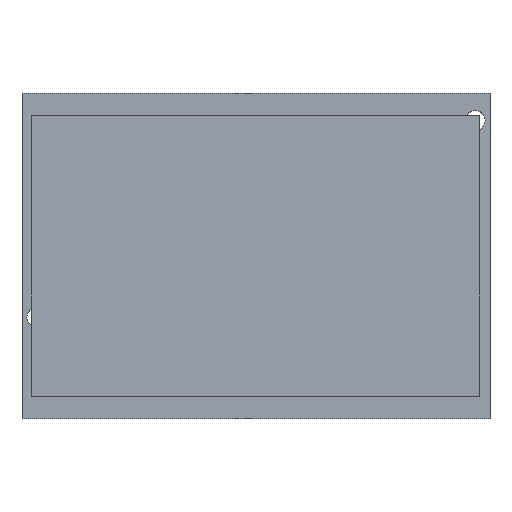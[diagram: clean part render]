
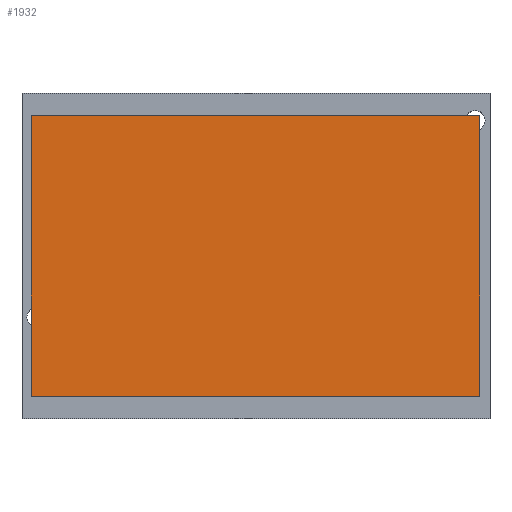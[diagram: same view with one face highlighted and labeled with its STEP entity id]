
A CAD part, top view. The second image highlights one B-rep face of the part: STEP entity #1932.
In plain terms, the highlighted planar face has unit normal (0, 0, 1) as drawn and (0, 0, -1) by its records, which use the part's own axes.
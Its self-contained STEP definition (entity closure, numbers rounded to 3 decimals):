
#677 = PLANE('',#678);
#678 = AXIS2_PLACEMENT_3D('',#679,#680,#681);
#679 = CARTESIAN_POINT('',(-18.6,5.7,2.));
#680 = DIRECTION('',(1.,0.,0.));
#681 = DIRECTION('',(0.,0.,-1.));
#759 = PLANE('',#760);
#760 = AXIS2_PLACEMENT_3D('',#761,#762,#763);
#761 = CARTESIAN_POINT('',(-18.6,5.7,2.));
#762 = DIRECTION('',(0.,-1.,0.));
#763 = DIRECTION('',(1.,0.,0.));
#853 = PLANE('',#854);
#854 = AXIS2_PLACEMENT_3D('',#855,#856,#857);
#855 = CARTESIAN_POINT('',(-0.4,5.7,2.));
#856 = DIRECTION('',(-1.,0.,0.));
#857 = DIRECTION('',(0.,0.,1.));
#917 = PLANE('',#918);
#918 = AXIS2_PLACEMENT_3D('',#919,#920,#921);
#919 = CARTESIAN_POINT('',(-18.6,-5.7,2.));
#920 = DIRECTION('',(0.,1.,0.));
#921 = DIRECTION('',(-1.,0.,0.));
#1433 = VERTEX_POINT('',#1434);
#1434 = CARTESIAN_POINT('',(-18.6,5.7,0.));
#1455 = EDGE_CURVE('',#1433,#1456,#1458,.T.);
#1456 = VERTEX_POINT('',#1457);
#1457 = CARTESIAN_POINT('',(-18.6,-5.7,0.));
#1458 = SURFACE_CURVE('',#1459,(#1463,#1470),.PCURVE_S1.);
#1459 = LINE('',#1460,#1461);
#1460 = CARTESIAN_POINT('',(-18.6,5.7,0.));
#1461 = VECTOR('',#1462,1.);
#1462 = DIRECTION('',(0.,-1.,0.));
#1463 = PCURVE('',#677,#1464);
#1464 = DEFINITIONAL_REPRESENTATION('',(#1465),#1469);
#1465 = LINE('',#1466,#1467);
#1466 = CARTESIAN_POINT('',(2.,0.));
#1467 = VECTOR('',#1468,1.);
#1468 = DIRECTION('',(0.,-1.));
#1469 = ( GEOMETRIC_REPRESENTATION_CONTEXT(2) 
PARAMETRIC_REPRESENTATION_CONTEXT() REPRESENTATION_CONTEXT('2D SPACE',''
  ) );
#1470 = PCURVE('',#1471,#1476);
#1471 = PLANE('',#1472);
#1472 = AXIS2_PLACEMENT_3D('',#1473,#1474,#1475);
#1473 = CARTESIAN_POINT('',(0.,0.,0.));
#1474 = DIRECTION('',(0.,0.,1.));
#1475 = DIRECTION('',(1.,0.,0.));
#1476 = DEFINITIONAL_REPRESENTATION('',(#1477),#1481);
#1477 = LINE('',#1478,#1479);
#1478 = CARTESIAN_POINT('',(-18.6,5.7));
#1479 = VECTOR('',#1480,1.);
#1480 = DIRECTION('',(0.,-1.));
#1481 = ( GEOMETRIC_REPRESENTATION_CONTEXT(2) 
PARAMETRIC_REPRESENTATION_CONTEXT() REPRESENTATION_CONTEXT('2D SPACE',''
  ) );
#1577 = EDGE_CURVE('',#1456,#1578,#1580,.T.);
#1578 = VERTEX_POINT('',#1579);
#1579 = CARTESIAN_POINT('',(-0.4,-5.7,0.));
#1580 = SURFACE_CURVE('',#1581,(#1585,#1592),.PCURVE_S1.);
#1581 = LINE('',#1582,#1583);
#1582 = CARTESIAN_POINT('',(-18.6,-5.7,0.));
#1583 = VECTOR('',#1584,1.);
#1584 = DIRECTION('',(1.,0.,0.));
#1585 = PCURVE('',#917,#1586);
#1586 = DEFINITIONAL_REPRESENTATION('',(#1587),#1591);
#1587 = LINE('',#1588,#1589);
#1588 = CARTESIAN_POINT('',(0.,-2.));
#1589 = VECTOR('',#1590,1.);
#1590 = DIRECTION('',(-1.,0.));
#1591 = ( GEOMETRIC_REPRESENTATION_CONTEXT(2) 
PARAMETRIC_REPRESENTATION_CONTEXT() REPRESENTATION_CONTEXT('2D SPACE',''
  ) );
#1592 = PCURVE('',#1471,#1593);
#1593 = DEFINITIONAL_REPRESENTATION('',(#1594),#1598);
#1594 = LINE('',#1595,#1596);
#1595 = CARTESIAN_POINT('',(-18.6,-5.7));
#1596 = VECTOR('',#1597,1.);
#1597 = DIRECTION('',(1.,0.));
#1598 = ( GEOMETRIC_REPRESENTATION_CONTEXT(2) 
PARAMETRIC_REPRESENTATION_CONTEXT() REPRESENTATION_CONTEXT('2D SPACE',''
  ) );
#1794 = EDGE_CURVE('',#1578,#1795,#1797,.T.);
#1795 = VERTEX_POINT('',#1796);
#1796 = CARTESIAN_POINT('',(-0.4,5.7,0.));
#1797 = SURFACE_CURVE('',#1798,(#1802,#1809),.PCURVE_S1.);
#1798 = LINE('',#1799,#1800);
#1799 = CARTESIAN_POINT('',(-0.4,5.7,0.));
#1800 = VECTOR('',#1801,1.);
#1801 = DIRECTION('',(0.,1.,0.));
#1802 = PCURVE('',#853,#1803);
#1803 = DEFINITIONAL_REPRESENTATION('',(#1804),#1808);
#1804 = LINE('',#1805,#1806);
#1805 = CARTESIAN_POINT('',(-2.,0.));
#1806 = VECTOR('',#1807,1.);
#1807 = DIRECTION('',(0.,1.));
#1808 = ( GEOMETRIC_REPRESENTATION_CONTEXT(2) 
PARAMETRIC_REPRESENTATION_CONTEXT() REPRESENTATION_CONTEXT('2D SPACE',''
  ) );
#1809 = PCURVE('',#1471,#1810);
#1810 = DEFINITIONAL_REPRESENTATION('',(#1811),#1815);
#1811 = LINE('',#1812,#1813);
#1812 = CARTESIAN_POINT('',(-0.4,5.7));
#1813 = VECTOR('',#1814,1.);
#1814 = DIRECTION('',(0.,1.));
#1815 = ( GEOMETRIC_REPRESENTATION_CONTEXT(2) 
PARAMETRIC_REPRESENTATION_CONTEXT() REPRESENTATION_CONTEXT('2D SPACE',''
  ) );
#1911 = EDGE_CURVE('',#1795,#1433,#1912,.T.);
#1912 = SURFACE_CURVE('',#1913,(#1917,#1924),.PCURVE_S1.);
#1913 = LINE('',#1914,#1915);
#1914 = CARTESIAN_POINT('',(-18.6,5.7,0.));
#1915 = VECTOR('',#1916,1.);
#1916 = DIRECTION('',(-1.,0.,0.));
#1917 = PCURVE('',#759,#1918);
#1918 = DEFINITIONAL_REPRESENTATION('',(#1919),#1923);
#1919 = LINE('',#1920,#1921);
#1920 = CARTESIAN_POINT('',(0.,-2.));
#1921 = VECTOR('',#1922,1.);
#1922 = DIRECTION('',(-1.,0.));
#1923 = ( GEOMETRIC_REPRESENTATION_CONTEXT(2) 
PARAMETRIC_REPRESENTATION_CONTEXT() REPRESENTATION_CONTEXT('2D SPACE',''
  ) );
#1924 = PCURVE('',#1471,#1925);
#1925 = DEFINITIONAL_REPRESENTATION('',(#1926),#1930);
#1926 = LINE('',#1927,#1928);
#1927 = CARTESIAN_POINT('',(-18.6,5.7));
#1928 = VECTOR('',#1929,1.);
#1929 = DIRECTION('',(-1.,0.));
#1930 = ( GEOMETRIC_REPRESENTATION_CONTEXT(2) 
PARAMETRIC_REPRESENTATION_CONTEXT() REPRESENTATION_CONTEXT('2D SPACE',''
  ) );
#1932 = ADVANCED_FACE('',(#1933),#1471,.F.);
#1933 = FACE_BOUND('',#1934,.T.);
#1934 = EDGE_LOOP('',(#1935,#1936,#1937,#1938));
#1935 = ORIENTED_EDGE('',*,*,#1455,.F.);
#1936 = ORIENTED_EDGE('',*,*,#1911,.F.);
#1937 = ORIENTED_EDGE('',*,*,#1794,.F.);
#1938 = ORIENTED_EDGE('',*,*,#1577,.F.);
